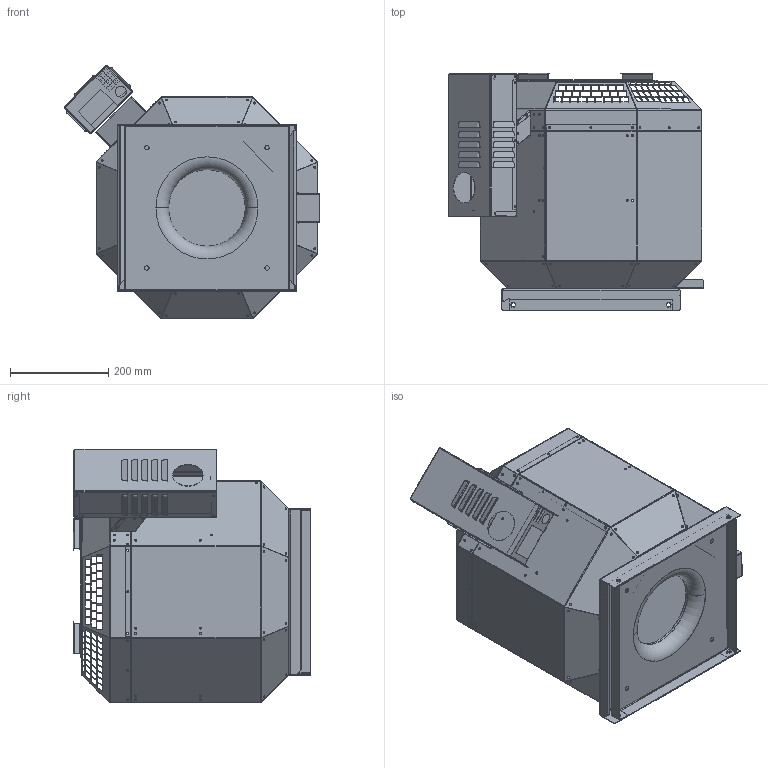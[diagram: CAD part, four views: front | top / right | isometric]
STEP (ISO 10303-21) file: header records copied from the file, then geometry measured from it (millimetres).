
FILE_DESCRIPTION (( 'STEP AP203' ), '1' );
FILE_NAME ('142175-00_DVN250D2F430_step.step', '2018-06-27T06:59:08', ( '' ), ( '' ), 'SwSTEP 2.0', 'SolidWorks 2017', '' );
FILE_SCHEMA (( 'CONFIG_CONTROL_DESIGN' ));
Products named in the file (1): 142175-00_DVN250D2F430_step
Bounding box: 520.61 x 484.07 x 516.77 mm (x, y, z)
Surface area: 2213359.3 mm2 (no closed solid volume)
Topology: 0 solids, 37 shells, 1605 faces, 6908 edges, 5001 vertices
Faces by surface type: plane 1037, cylinder 468, bspline 96, torus 4
Entity records: 89062 total; most frequent: CARTESIAN_POINT 32968, DIRECTION 10842, ORIENTED_EDGE 10180, EDGE_CURVE 6908, VERTEX_POINT 5001, LINE 4956, VECTOR 4956, AXIS2_PLACEMENT_3D 2943
